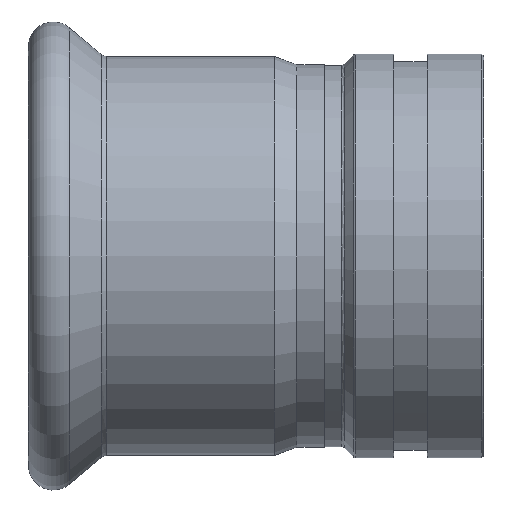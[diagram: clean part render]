
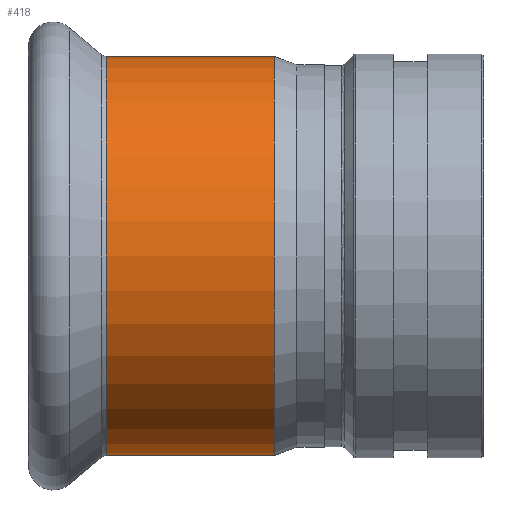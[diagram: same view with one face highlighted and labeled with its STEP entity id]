
A CAD part, front view. The second image highlights one B-rep face of the part: STEP entity #418.
In plain terms, the highlighted cylindrical face has radius 56.35 mm (diameter 112.7 mm), a full revolution.
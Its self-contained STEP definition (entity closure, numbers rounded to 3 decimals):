
#367=CARTESIAN_POINT('',(-61.605,56.35,0.));
#368=VERTEX_POINT('',#367);
#369=CARTESIAN_POINT('',(-61.605,0.,0.0));
#370=DIRECTION('',(-1.0,0.0,0.0));
#371=DIRECTION('',(0.0,-1.0,0.0));
#372=AXIS2_PLACEMENT_3D('',#369,#370,#371);
#373=CIRCLE('',#372,56.35);
#374=EDGE_CURVE('',#368,#368,#373,.T.);
#399=CARTESIAN_POINT('',(-38.24,0.,0.0));
#400=DIRECTION('',(1.0,0.,0.0));
#401=DIRECTION('',(0.0,1.0,0.0));
#402=AXIS2_PLACEMENT_3D('',#399,#400,#401);
#403=CYLINDRICAL_SURFACE('',#402,56.35);
#404=CARTESIAN_POINT('',(-14.147,56.35,0.0));
#405=VERTEX_POINT('',#404);
#406=CARTESIAN_POINT('',(-14.147,0.,0.0));
#407=DIRECTION('',(1.0,0.0,0.0));
#408=DIRECTION('',(0.0,1.0,0.0));
#409=AXIS2_PLACEMENT_3D('',#406,#407,#408);
#410=CIRCLE('',#409,56.35);
#411=EDGE_CURVE('',#405,#405,#410,.T.);
#412=ORIENTED_EDGE('',*,*,#411,.F.);
#413=EDGE_LOOP('',(#412));
#414=FACE_OUTER_BOUND('',#413,.T.);
#415=ORIENTED_EDGE('',*,*,#374,.F.);
#416=EDGE_LOOP('',(#415));
#417=FACE_BOUND('',#416,.T.);
#418=ADVANCED_FACE('',(#414,#417),#403,.T.);
